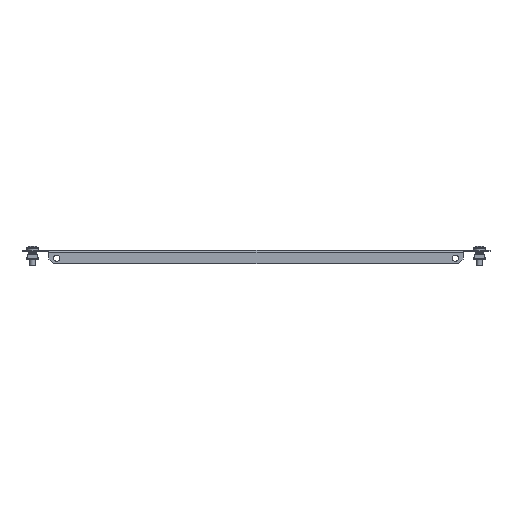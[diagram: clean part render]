
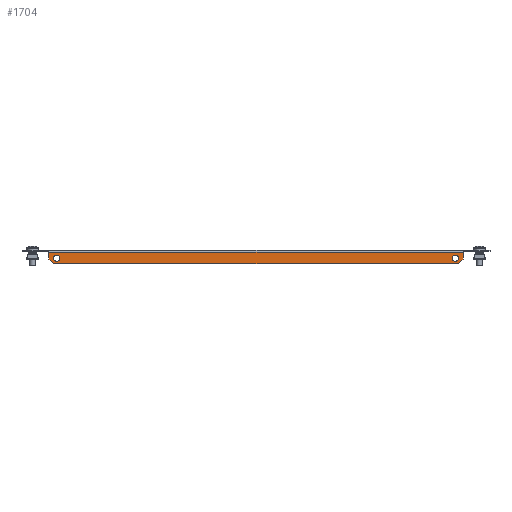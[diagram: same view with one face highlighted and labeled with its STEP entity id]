
A CAD part, front view. The second image highlights one B-rep face of the part: STEP entity #1704.
In plain terms, the highlighted planar face has unit normal (0, -1, 0).
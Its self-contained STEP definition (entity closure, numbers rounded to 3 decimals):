
#125 = FACE_OUTER_BOUND ( 'NONE', #6229, .T. ) ;
#187 = AXIS2_PLACEMENT_3D ( 'NONE', #6546, #3642, #774 ) ;
#211 = LINE ( 'NONE', #7217, #1169 ) ;
#222 = ORIENTED_EDGE ( 'NONE', *, *, #4172, .T. ) ;
#574 = EDGE_CURVE ( 'NONE', #1280, #5624, #4654, .T. ) ;
#716 = AXIS2_PLACEMENT_3D ( 'NONE', #776, #7246, #2535 ) ;
#774 = DIRECTION ( 'NONE',  ( 0., 0., 1. ) ) ;
#776 = CARTESIAN_POINT ( 'NONE',  ( -207., -99.5, -8. ) ) ;
#781 = CARTESIAN_POINT ( 'NONE',  ( -215., -99.5, -9. ) ) ;
#844 = VECTOR ( 'NONE', #5105, 1000. ) ;
#976 = VECTOR ( 'NONE', #1521, 1000. ) ;
#1109 = VERTEX_POINT ( 'NONE', #6402 ) ;
#1169 = VECTOR ( 'NONE', #1395, 1000. ) ;
#1204 = CIRCLE ( 'NONE', #3169, 3.25 ) ;
#1228 = ORIENTED_EDGE ( 'NONE', *, *, #2679, .T. ) ;
#1280 = VERTEX_POINT ( 'NONE', #6717 ) ;
#1296 = VERTEX_POINT ( 'NONE', #2449 ) ;
#1395 = DIRECTION ( 'NONE',  ( 0.707, 0., 0.707 ) ) ;
#1521 = DIRECTION ( 'NONE',  ( 0.707, 0., -0.707 ) ) ;
#1599 = DIRECTION ( 'NONE',  ( 0., 0., 1. ) ) ;
#1704 = ADVANCED_FACE ( 'NONE', ( #4175, #6506, #125 ), #4210, .T. ) ;
#1890 = EDGE_LOOP ( 'NONE', ( #7389 ) ) ;
#2045 = ORIENTED_EDGE ( 'NONE', *, *, #6497, .T. ) ;
#2195 = CIRCLE ( 'NONE', #716, 3.25 ) ;
#2310 = CARTESIAN_POINT ( 'NONE',  ( 0., -99.5, -2. ) ) ;
#2327 = DIRECTION ( 'NONE',  ( 0., 0., -1. ) ) ;
#2379 = LINE ( 'NONE', #2310, #7071 ) ;
#2424 = LINE ( 'NONE', #7098, #5616 ) ;
#2449 = CARTESIAN_POINT ( 'NONE',  ( 207., -99.5, -4.75 ) ) ;
#2535 = DIRECTION ( 'NONE',  ( 0., 0., 1. ) ) ;
#2679 = EDGE_CURVE ( 'NONE', #4236, #1109, #211, .T. ) ;
#2715 = VERTEX_POINT ( 'NONE', #6215 ) ;
#2977 = CARTESIAN_POINT ( 'NONE',  ( -207., -99.5, -4.75 ) ) ;
#3169 = AXIS2_PLACEMENT_3D ( 'NONE', #7481, #4603, #1599 ) ;
#3322 = CARTESIAN_POINT ( 'NONE',  ( -215., -99.5, 0. ) ) ;
#3323 = DIRECTION ( 'NONE',  ( -1., 0., 0. ) ) ;
#3502 = CARTESIAN_POINT ( 'NONE',  ( 215., -99.5, 0. ) ) ;
#3642 = DIRECTION ( 'NONE',  ( 0., -1., 0. ) ) ;
#4172 = EDGE_CURVE ( 'NONE', #2715, #1280, #2379, .T. ) ;
#4175 = FACE_BOUND ( 'NONE', #5085, .T. ) ;
#4210 = PLANE ( 'NONE',  #187 ) ;
#4236 = VERTEX_POINT ( 'NONE', #6013 ) ;
#4249 = EDGE_CURVE ( 'NONE', #5884, #5884, #2195, .T. ) ;
#4541 = ORIENTED_EDGE ( 'NONE', *, *, #6639, .F. ) ;
#4603 = DIRECTION ( 'NONE',  ( 0., -1., 0. ) ) ;
#4654 = LINE ( 'NONE', #3322, #6041 ) ;
#4955 = LINE ( 'NONE', #6534, #976 ) ;
#5036 = ORIENTED_EDGE ( 'NONE', *, *, #6655, .T. ) ;
#5085 = EDGE_LOOP ( 'NONE', ( #4541 ) ) ;
#5105 = DIRECTION ( 'NONE',  ( 0., 0., 1. ) ) ;
#5185 = ORIENTED_EDGE ( 'NONE', *, *, #574, .T. ) ;
#5616 = VECTOR ( 'NONE', #5866, 1000. ) ;
#5624 = VERTEX_POINT ( 'NONE', #781 ) ;
#5866 = DIRECTION ( 'NONE',  ( 1., 0., 0. ) ) ;
#5884 = VERTEX_POINT ( 'NONE', #2977 ) ;
#6013 = CARTESIAN_POINT ( 'NONE',  ( 210., -99.5, -14. ) ) ;
#6041 = VECTOR ( 'NONE', #2327, 1000. ) ;
#6215 = CARTESIAN_POINT ( 'NONE',  ( 215., -99.5, -2. ) ) ;
#6229 = EDGE_LOOP ( 'NONE', ( #7443, #1228, #5036, #222, #5185, #2045 ) ) ;
#6329 = LINE ( 'NONE', #3502, #844 ) ;
#6402 = CARTESIAN_POINT ( 'NONE',  ( 215., -99.5, -9. ) ) ;
#6497 = EDGE_CURVE ( 'NONE', #5624, #7019, #4955, .T. ) ;
#6506 = FACE_BOUND ( 'NONE', #1890, .T. ) ;
#6534 = CARTESIAN_POINT ( 'NONE',  ( -112., -99.5, -112. ) ) ;
#6546 = CARTESIAN_POINT ( 'NONE',  ( 0., -99.5, 0. ) ) ;
#6639 = EDGE_CURVE ( 'NONE', #1296, #1296, #1204, .T. ) ;
#6655 = EDGE_CURVE ( 'NONE', #1109, #2715, #6329, .T. ) ;
#6717 = CARTESIAN_POINT ( 'NONE',  ( -215., -99.5, -2. ) ) ;
#6809 = EDGE_CURVE ( 'NONE', #7019, #4236, #2424, .T. ) ;
#7019 = VERTEX_POINT ( 'NONE', #7543 ) ;
#7071 = VECTOR ( 'NONE', #3323, 1000. ) ;
#7098 = CARTESIAN_POINT ( 'NONE',  ( 0., -99.5, -14. ) ) ;
#7217 = CARTESIAN_POINT ( 'NONE',  ( 112., -99.5, -112. ) ) ;
#7246 = DIRECTION ( 'NONE',  ( 0., 1., 0. ) ) ;
#7389 = ORIENTED_EDGE ( 'NONE', *, *, #4249, .T. ) ;
#7443 = ORIENTED_EDGE ( 'NONE', *, *, #6809, .T. ) ;
#7481 = CARTESIAN_POINT ( 'NONE',  ( 207., -99.5, -8. ) ) ;
#7543 = CARTESIAN_POINT ( 'NONE',  ( -210., -99.5, -14. ) ) ;
